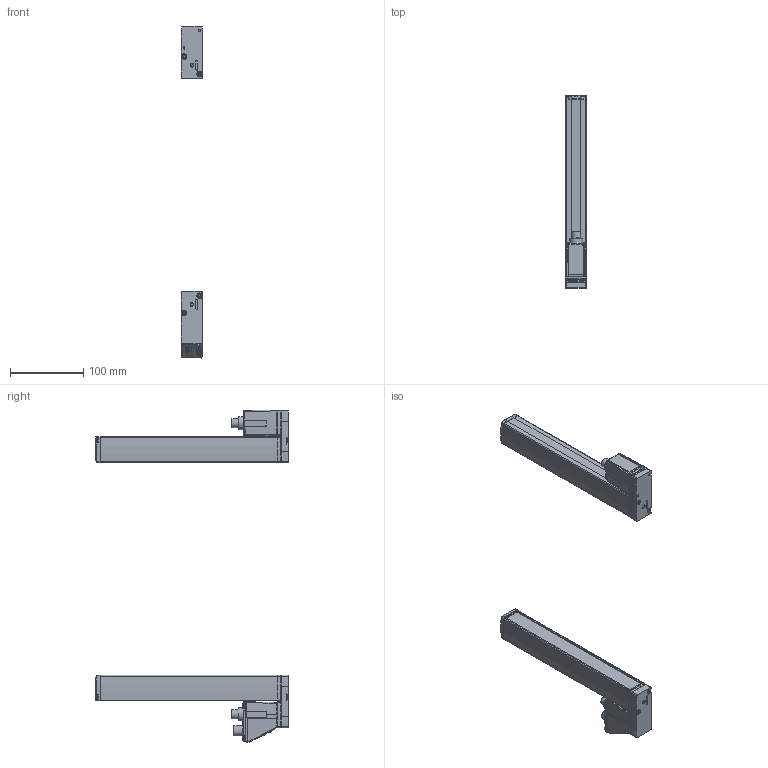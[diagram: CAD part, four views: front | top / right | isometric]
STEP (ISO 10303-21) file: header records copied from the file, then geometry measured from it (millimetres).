
FILE_DESCRIPTION(/* description */ (''),/* implementation_level */ '2;1');
FILE_NAME(/* name */ '3D_CML_700_240_R.stp',/* time_stamp */ '2013-03-06T11:46:11+01:00',/* author */ (''),/* organization */ (''),/* preprocessor_version */ 'ST-DEVELOPER v11',/* originating_system */ 'SIEMENS UGS NX 6.0',/* authorisation */ '');
FILE_SCHEMA (('AUTOMOTIVE_DESIGN { 1 0 10303 214 1 1 1 1 }'));
Length unit declared in the file: millimetre
Products named in the file (10): M12-X_A; 002491_00.0; 001890_B; 002487_00.0; 002486_00.0; 002485_00.0; 002501_00.0_MODEL; 002492_00.1; 002484_00.1_MODEL; 002489_20.0
Assembly tree (10 placements, depth 4):
  002489_20.0
    002484_00.1_MODEL
      002485_00.0
      002486_00.0
      002487_00.0
      001890_B
    002492_00.1
      002485_00.0
      002491_00.0
      002501_00.0_MODEL
        M12-X_A
Bounding box: 29.39 x 263.2 x 453.44 mm (x, y, z)
Volume: 528988.2 mm3; surface area: 149195.8 mm2
Topology: 9 solids, 18 shells, 4040 faces, 10974 edges, 7006 vertices
Faces by surface type: plane 1996, cylinder 943, bspline 428, cone 260, torus 156, revolution 121, extrusion 87, sphere 49
Full cylindrical faces by diameter (mm): 0.4 x1, 0.75 x1, 0.85 x1, 1 x11, 1.25 x7, 1.4 x1, 2 x4, 2.5 x1, 2.6 x13, 3.2 x4, 3.3 x1, 3.5 x10, 3.7 x2, 4 x7, 4.2 x3, 6 x2, 6.7 x8, 7 x5, 8 x1, 8.6 x2, 9.3 x2, 10 x1, 10.11 x1, 12 x2, 13.98 x1, 15.6 x1, 18 x2
Entity records: 206107 total; most frequent: CARTESIAN_POINT 102243, ORIENTED_EDGE 20910, DIRECTION 18712, EDGE_CURVE 10455, VERTEX_POINT 6800, AXIS2_PLACEMENT_3D 6322, VECTOR 5947, LINE 5860
